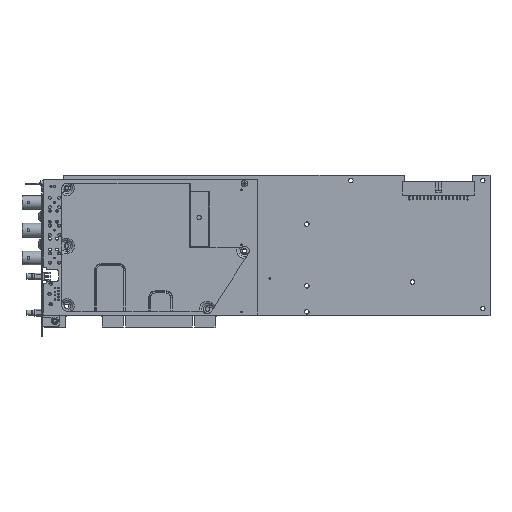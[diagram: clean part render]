
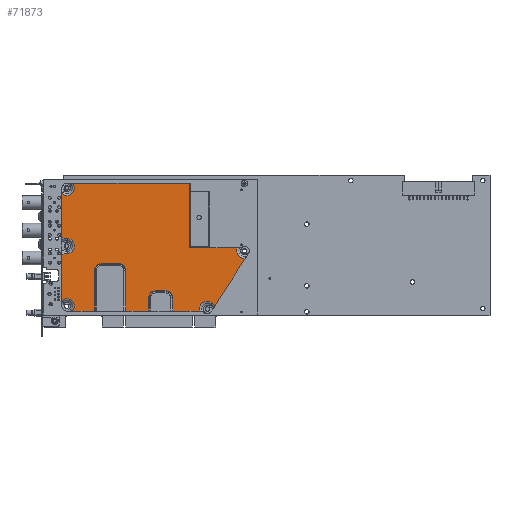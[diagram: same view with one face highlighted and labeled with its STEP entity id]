
A CAD part, top view. The second image highlights one B-rep face of the part: STEP entity #71873.
In plain terms, the highlighted planar face has unit normal (0, 0, 1).
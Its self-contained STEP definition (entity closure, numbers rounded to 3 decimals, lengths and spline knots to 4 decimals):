
#68662=CARTESIAN_POINT('',(-4.7346,-1.656,0.611));
#68669=CARTESIAN_POINT('',(-5.03,-1.357,0.611));
#68730=CARTESIAN_POINT('',(-4.9,-1.524,0.611));
#68731=DIRECTION('',(0.,0.,1.));
#68732=DIRECTION('',(0.782,-0.624,0.));
#68733=AXIS2_PLACEMENT_3D('',#68730,#68731,#68732);
#68735=DIRECTION('',(0.,-1.,0.));
#68736=VECTOR('',#68735,1.2701);
#68737=CARTESIAN_POINT('',(-5.03,-0.0868,0.611));
#68738=LINE('',#68737,#68736);
#68739=DIRECTION('',(0.996,0.087,0.));
#68740=VECTOR('',#68739,0.149);
#68741=CARTESIAN_POINT('',(-5.03,-0.0868,0.611));
#68742=LINE('',#68741,#68740);
#68743=CARTESIAN_POINT('',(-4.9,0.137,0.611));
#68744=DIRECTION('',(0.,0.,1.));
#68745=DIRECTION('',(0.087,-0.996,0.));
#68746=AXIS2_PLACEMENT_3D('',#68743,#68744,#68745);
#68748=DIRECTION('',(-0.996,0.087,0.));
#68749=VECTOR('',#68748,0.149);
#68750=CARTESIAN_POINT('',(-4.8816,0.3478,0.611));
#68751=LINE('',#68750,#68749);
#68752=DIRECTION('',(0.,-1.,0.));
#68753=VECTOR('',#68752,1.2071);
#68754=CARTESIAN_POINT('',(-5.03,1.568,0.611));
#68755=LINE('',#68754,#68753);
#68756=CARTESIAN_POINT('',(-4.9,1.735,0.611));
#68757=DIRECTION('',(0.,0.,1.));
#68758=DIRECTION('',(-0.614,-0.789,0.));
#68759=AXIS2_PLACEMENT_3D('',#68756,#68757,#68758);
#68761=DIRECTION('',(-1.,0.,0.));
#68762=VECTOR('',#68761,3.218);
#68763=CARTESIAN_POINT('',(-1.515,1.865,0.611));
#68764=LINE('',#68763,#68762);
#68765=DIRECTION('',(0.,1.,0.));
#68766=VECTOR('',#68765,0.04);
#68767=CARTESIAN_POINT('',(-1.515,0.083,0.611));
#68768=LINE('',#68767,#68766);
#68769=CARTESIAN_POINT('',(0.,0.,0.611));
#68770=DIRECTION('',(0.,0.,1.));
#68771=DIRECTION('',(-0.92,0.392,0.));
#68772=AXIS2_PLACEMENT_3D('',#68769,#68770,#68771);
#68774=DIRECTION('',(-0.54,-0.842,0.));
#68775=VECTOR('',#68774,1.5364);
#68776=CARTESIAN_POINT('',(0.0193,-0.2108,0.611));
#68777=LINE('',#68776,#68775);
#68778=DIRECTION('',(-0.766,0.643,0.));
#68779=VECTOR('',#68778,0.1034);
#68780=CARTESIAN_POINT('',(-0.8098,-1.5043,0.611));
#68781=LINE('',#68780,#68779);
#68782=CARTESIAN_POINT('',(-1.025,-1.6,0.611));
#68783=DIRECTION('',(0.,0.,1.));
#68784=DIRECTION('',(0.643,0.766,0.));
#68785=AXIS2_PLACEMENT_3D('',#68782,#68783,#68784);
#68787=DIRECTION('',(1.,0.,0.));
#68788=VECTOR('',#68787,0.2435);
#68789=CARTESIAN_POINT('',(-1.4726,-1.656,0.611));
#68790=LINE('',#68789,#68788);
#68791=DIRECTION('',(1.,0.,0.));
#68792=VECTOR('',#68791,0.5094);
#68793=CARTESIAN_POINT('',(-1.982,-1.656,0.611));
#68794=LINE('',#68793,#68792);
#68795=DIRECTION('',(0.,1.,0.));
#68796=VECTOR('',#68795,0.375);
#68797=CARTESIAN_POINT('',(-1.982,-1.656,0.611));
#68798=LINE('',#68797,#68796);
#68799=CARTESIAN_POINT('',(-2.161,-1.281,0.611));
#68800=DIRECTION('',(0.,0.,1.));
#68801=DIRECTION('',(1.,0.,0.));
#68802=AXIS2_PLACEMENT_3D('',#68799,#68800,#68801);
#68804=DIRECTION('',(1.,0.,0.));
#68805=VECTOR('',#68804,0.3);
#68806=CARTESIAN_POINT('',(-2.461,-1.102,0.611));
#68807=LINE('',#68806,#68805);
#68808=CARTESIAN_POINT('',(-2.461,-1.281,0.611));
#68809=DIRECTION('',(0.,0.,-1.));
#68810=DIRECTION('',(-1.,0.,0.));
#68811=AXIS2_PLACEMENT_3D('',#68808,#68809,#68810);
#68813=DIRECTION('',(0.,-1.,0.));
#68814=VECTOR('',#68813,0.375);
#68815=CARTESIAN_POINT('',(-2.64,-1.281,0.611));
#68816=LINE('',#68815,#68814);
#68817=DIRECTION('',(1.,0.,0.));
#68818=VECTOR('',#68817,0.632);
#68819=CARTESIAN_POINT('',(-3.272,-1.656,0.611));
#68820=LINE('',#68819,#68818);
#68821=DIRECTION('',(0.,1.,0.));
#68822=VECTOR('',#68821,1.125);
#68823=CARTESIAN_POINT('',(-3.272,-1.656,0.611));
#68824=LINE('',#68823,#68822);
#68825=CARTESIAN_POINT('',(-3.451,-0.531,0.611));
#68826=DIRECTION('',(0.,0.,-1.));
#68827=DIRECTION('',(0.,1.,0.));
#68828=AXIS2_PLACEMENT_3D('',#68825,#68826,#68827);
#68830=DIRECTION('',(1.,0.,0.));
#68831=VECTOR('',#68830,0.5);
#68832=CARTESIAN_POINT('',(-3.951,-0.352,0.611));
#68833=LINE('',#68832,#68831);
#68834=CARTESIAN_POINT('',(-3.951,-0.531,0.611));
#68835=DIRECTION('',(0.,0.,-1.));
#68836=DIRECTION('',(-1.,0.,0.));
#68837=AXIS2_PLACEMENT_3D('',#68834,#68835,#68836);
#68839=DIRECTION('',(0.,1.,0.));
#68840=VECTOR('',#68839,1.125);
#68841=CARTESIAN_POINT('',(-4.13,-1.656,0.611));
#68842=LINE('',#68841,#68840);
#68843=DIRECTION('',(1.,0.,0.));
#68844=VECTOR('',#68843,0.6046);
#68845=CARTESIAN_POINT('',(-4.7346,-1.656,0.611));
#68846=LINE('',#68845,#68844);
#69327=CARTESIAN_POINT('',(-5.03,1.568,0.611));
#69334=CARTESIAN_POINT('',(-4.733,1.865,0.611));
#69460=DIRECTION('',(0.,-1.,0.));
#69461=VECTOR('',#69460,1.742);
#69462=CARTESIAN_POINT('',(-1.515,1.865,0.611));
#69463=LINE('',#69462,#69461);
#69685=DIRECTION('',(-1.,0.,0.));
#69686=VECTOR('',#69685,1.3203);
#69687=CARTESIAN_POINT('',(-0.1947,0.083,0.611));
#69688=LINE('',#69687,#69686);
#69750=CARTESIAN_POINT('',(0.0193,-0.2108,0.611));
#69794=CARTESIAN_POINT('',(-0.1947,0.083,0.611));
#70133=CARTESIAN_POINT('',(-1.2291,-1.656,0.611));
#70978=CARTESIAN_POINT('',(-1.515,0.083,0.611));
#70979=CARTESIAN_POINT('',(-1.515,0.123,0.611));
#70980=VERTEX_POINT('',#70978);
#70981=VERTEX_POINT('',#70979);
#70994=CARTESIAN_POINT('',(-1.515,1.865,0.611));
#70995=VERTEX_POINT('',#70994);
#71046=CARTESIAN_POINT('',(-1.4726,-1.656,0.611));
#71048=VERTEX_POINT('',#71046);
#71090=CARTESIAN_POINT('',(-5.03,-0.0868,0.611));
#71091=CARTESIAN_POINT('',(-4.8816,-0.0738,0.611));
#71092=VERTEX_POINT('',#71090);
#71093=VERTEX_POINT('',#71091);
#71094=CARTESIAN_POINT('',(-4.8816,0.3478,0.611));
#71095=VERTEX_POINT('',#71094);
#71096=CARTESIAN_POINT('',(-5.03,0.3608,0.611));
#71097=VERTEX_POINT('',#71096);
#71188=CARTESIAN_POINT('',(-0.8098,-1.5043,0.611));
#71189=CARTESIAN_POINT('',(-0.889,-1.4379,0.611));
#71190=VERTEX_POINT('',#71188);
#71191=VERTEX_POINT('',#71189);
#71266=CARTESIAN_POINT('',(-3.272,-1.656,0.611));
#71267=CARTESIAN_POINT('',(-2.64,-1.656,0.611));
#71268=VERTEX_POINT('',#71266);
#71269=VERTEX_POINT('',#71267);
#71288=CARTESIAN_POINT('',(-4.13,-1.656,0.611));
#71289=CARTESIAN_POINT('',(-4.13,-0.531,0.611));
#71290=VERTEX_POINT('',#71288);
#71291=VERTEX_POINT('',#71289);
#71292=CARTESIAN_POINT('',(-3.951,-0.352,0.611));
#71293=VERTEX_POINT('',#71292);
#71294=CARTESIAN_POINT('',(-3.451,-0.352,0.611));
#71295=VERTEX_POINT('',#71294);
#71296=CARTESIAN_POINT('',(-3.272,-0.531,0.611));
#71297=VERTEX_POINT('',#71296);
#71308=CARTESIAN_POINT('',(-2.64,-1.281,0.611));
#71309=VERTEX_POINT('',#71308);
#71346=CARTESIAN_POINT('',(-2.461,-1.102,0.611));
#71347=VERTEX_POINT('',#71346);
#71348=CARTESIAN_POINT('',(-2.161,-1.102,0.611));
#71349=VERTEX_POINT('',#71348);
#71350=CARTESIAN_POINT('',(-1.982,-1.281,0.611));
#71351=VERTEX_POINT('',#71350);
#71362=CARTESIAN_POINT('',(-1.982,-1.656,0.611));
#71363=VERTEX_POINT('',#71362);
#71369=VERTEX_POINT('',#69327);
#71370=VERTEX_POINT('',#69334);
#71385=VERTEX_POINT('',#68662);
#71386=VERTEX_POINT('',#68669);
#71400=VERTEX_POINT('',#69750);
#71403=VERTEX_POINT('',#69794);
#71421=VERTEX_POINT('',#70133);
#71811=CARTESIAN_POINT('',(0.363,1.973,0.611));
#71812=DIRECTION('',(0.,0.,1.));
#71813=DIRECTION('',(1.,0.,0.));
#71814=AXIS2_PLACEMENT_3D('',#71811,#71812,#71813);
#71815=PLANE('',#71814);
#71816=ORIENTED_EDGE('',*,*,#71708,.T.);
#71817=ORIENTED_EDGE('',*,*,#71660,.F.);
#71819=ORIENTED_EDGE('',*,*,#71818,.T.);
#71821=ORIENTED_EDGE('',*,*,#71820,.T.);
#71823=ORIENTED_EDGE('',*,*,#71822,.T.);
#71825=ORIENTED_EDGE('',*,*,#71824,.F.);
#71827=ORIENTED_EDGE('',*,*,#71826,.T.);
#71829=ORIENTED_EDGE('',*,*,#71828,.F.);
#71831=ORIENTED_EDGE('',*,*,#71830,.T.);
#71833=ORIENTED_EDGE('',*,*,#71832,.F.);
#71835=ORIENTED_EDGE('',*,*,#71834,.F.);
#71837=ORIENTED_EDGE('',*,*,#71836,.T.);
#71839=ORIENTED_EDGE('',*,*,#71838,.T.);
#71841=ORIENTED_EDGE('',*,*,#71840,.T.);
#71843=ORIENTED_EDGE('',*,*,#71842,.T.);
#71845=ORIENTED_EDGE('',*,*,#71844,.F.);
#71847=ORIENTED_EDGE('',*,*,#71846,.F.);
#71849=ORIENTED_EDGE('',*,*,#71848,.T.);
#71851=ORIENTED_EDGE('',*,*,#71850,.T.);
#71853=ORIENTED_EDGE('',*,*,#71852,.F.);
#71855=ORIENTED_EDGE('',*,*,#71854,.F.);
#71857=ORIENTED_EDGE('',*,*,#71856,.T.);
#71859=ORIENTED_EDGE('',*,*,#71858,.F.);
#71861=ORIENTED_EDGE('',*,*,#71860,.T.);
#71863=ORIENTED_EDGE('',*,*,#71862,.F.);
#71865=ORIENTED_EDGE('',*,*,#71864,.F.);
#71867=ORIENTED_EDGE('',*,*,#71866,.F.);
#71869=ORIENTED_EDGE('',*,*,#71868,.F.);
#71870=ORIENTED_EDGE('',*,*,#71553,.F.);
#71871=EDGE_LOOP('',(#71816,#71817,#71819,#71821,#71823,#71825,#71827,#71829,
#71831,#71833,#71835,#71837,#71839,#71841,#71843,#71845,#71847,#71849,#71851,
#71853,#71855,#71857,#71859,#71861,#71863,#71865,#71867,#71869,#71870));
#71872=FACE_OUTER_BOUND('',#71871,.F.);
#71873=ADVANCED_FACE('',(#71872),#71815,.T.);
#68734=CIRCLE('',#68733,0.2117);
#68747=CIRCLE('',#68746,0.2117);
#68760=CIRCLE('',#68759,0.2117);
#68773=CIRCLE('',#68772,0.2117);
#68786=CIRCLE('',#68785,0.2117);
#68803=CIRCLE('',#68802,0.179);
#68812=CIRCLE('',#68811,0.179);
#68829=CIRCLE('',#68828,0.179);
#68838=CIRCLE('',#68837,0.179);
#71553=EDGE_CURVE('',#71385,#71290,#68846,.T.);
#71660=EDGE_CURVE('',#71092,#71386,#68738,.T.);
#71708=EDGE_CURVE('',#71385,#71386,#68734,.T.);
#71818=EDGE_CURVE('',#71092,#71093,#68742,.T.);
#71820=EDGE_CURVE('',#71093,#71095,#68747,.T.);
#71822=EDGE_CURVE('',#71095,#71097,#68751,.T.);
#71824=EDGE_CURVE('',#71369,#71097,#68755,.T.);
#71826=EDGE_CURVE('',#71369,#71370,#68760,.T.);
#71828=EDGE_CURVE('',#70995,#71370,#68764,.T.);
#71830=EDGE_CURVE('',#70995,#70981,#69463,.T.);
#71832=EDGE_CURVE('',#70980,#70981,#68768,.T.);
#71834=EDGE_CURVE('',#71403,#70980,#69688,.T.);
#71836=EDGE_CURVE('',#71403,#71400,#68773,.T.);
#71838=EDGE_CURVE('',#71400,#71190,#68777,.T.);
#71840=EDGE_CURVE('',#71190,#71191,#68781,.T.);
#71842=EDGE_CURVE('',#71191,#71421,#68786,.T.);
#71844=EDGE_CURVE('',#71048,#71421,#68790,.T.);
#71846=EDGE_CURVE('',#71363,#71048,#68794,.T.);
#71848=EDGE_CURVE('',#71363,#71351,#68798,.T.);
#71850=EDGE_CURVE('',#71351,#71349,#68803,.T.);
#71852=EDGE_CURVE('',#71347,#71349,#68807,.T.);
#71854=EDGE_CURVE('',#71309,#71347,#68812,.T.);
#71856=EDGE_CURVE('',#71309,#71269,#68816,.T.);
#71858=EDGE_CURVE('',#71268,#71269,#68820,.T.);
#71860=EDGE_CURVE('',#71268,#71297,#68824,.T.);
#71862=EDGE_CURVE('',#71295,#71297,#68829,.T.);
#71864=EDGE_CURVE('',#71293,#71295,#68833,.T.);
#71866=EDGE_CURVE('',#71291,#71293,#68838,.T.);
#71868=EDGE_CURVE('',#71290,#71291,#68842,.T.);
